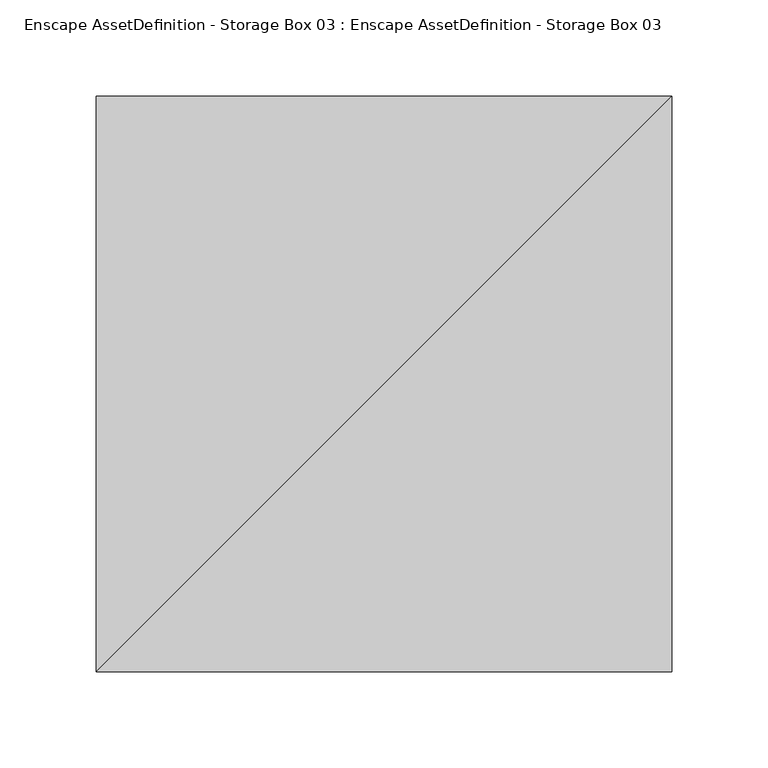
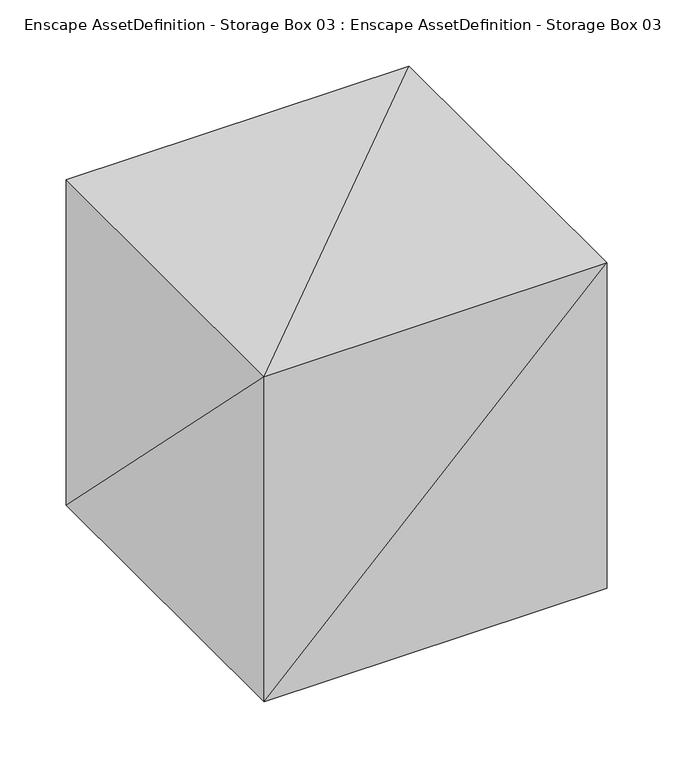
"""IFC4 building model written with IfcOpenShell, lengths in millimetres: geographic element geometry, Enscape AssetDefinition - Storage Box 03 : Enscape AssetDefinition - Storage Box 03."""

from ifc_helpers import new_model, si_unit, origin, place, context, project, spatial, faceted_brep, source, transform, mapped, element, save


def enscape_assetdefinition_storage_box_03_enscape_1ab63e7b(model_context):
    return source(origin(), model_context, "Body", "Brep", [
        faceted_brep([(149.5617926, 149.6583372, 0.0), (-149.7203112, -149.5402157, 0.0), (-149.7203112, 149.6583372, 0.0), (149.5617926, -149.5402157, 0.0), (149.5617926, 149.6583372, 300.0000119), (-149.7203112, -149.5402157, 300.0000119), (149.5617926, -149.5402157, 300.0000119), (-149.7203112, 149.6583372, 300.0000119)], [[[0, 1, 2]], [[1, 0, 3]], [[4, 5, 6]], [[5, 4, 7]], [[6, 1, 3]], [[1, 6, 5]], [[4, 3, 0]], [[3, 4, 6]], [[7, 0, 2]], [[0, 7, 4]], [[5, 2, 1]], [[2, 5, 7]]]),
    ])


if __name__ == "__main__":
    model = new_model("IFC4")
    model_context = context("Model", 3, world=origin())
    ifc_project = project(units=[si_unit("LENGTHUNIT", "METRE", prefix="MILLI")], contexts=[model_context])
    site = spatial("IfcSite", under=ifc_project)
    building = spatial("IfcBuilding", under=site)
    placement = place(None, origin())
    enscape_assetdefinition_storage_box_03_enscape_shape = enscape_assetdefinition_storage_box_03_enscape_1ab63e7b(model_context)
    element("IfcGeographicElement", 1, ObjectType="Enscape AssetDefinition - Storage Box 03 : Enscape AssetDefinition - Storage Box 03", at=placement, inside=building, context=model_context, shape_type="MappedRepresentation", body=[
        mapped(enscape_assetdefinition_storage_box_03_enscape_shape, transform((0.0, 0.0, 0.0), x_axis=(1.0, 0.0, 0.0), y_axis=(0.0, 1.0, 0.0), z_axis=(0.0, 0.0, 1.0))),
    ])
    save(model, "model.ifc")
